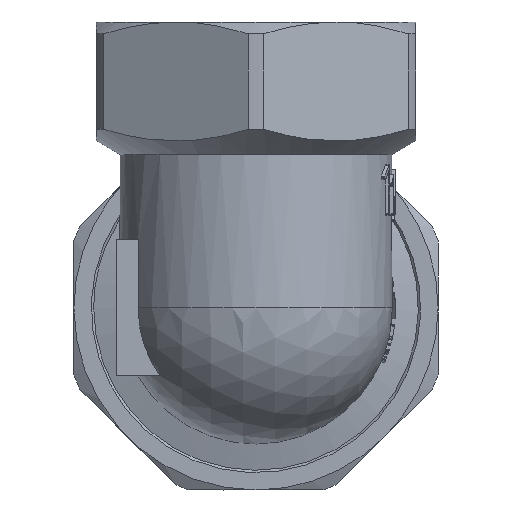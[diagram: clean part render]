
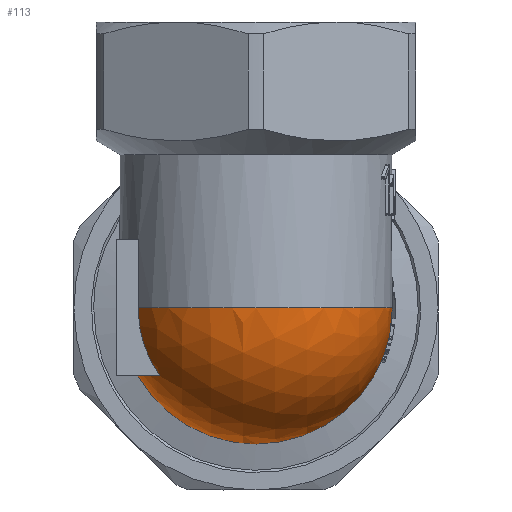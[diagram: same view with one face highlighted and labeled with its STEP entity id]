
A CAD part, front view. The second image highlights one B-rep face of the part: STEP entity #113.
In plain terms, the highlighted spherical face has radius 20 mm.
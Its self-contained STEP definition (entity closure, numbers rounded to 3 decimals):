
#113=ADVANCED_FACE('',(#981),#983,.T.);
#981=FACE_BOUND('',#982,.T.);
#982=EDGE_LOOP('',(#3015,#3016,#3017,#3018));
#983=SPHERICAL_SURFACE('',#984,20.);
#984=AXIS2_PLACEMENT_3D('',#985,#986,#987);
#985=CARTESIAN_POINT('',(0.,0.,0.));
#986=DIRECTION('',(-1.,0.,0.));
#987=DIRECTION('',(0.,0.,-1.));
#3015=ORIENTED_EDGE('',*,*,#4830,.T.);
#3016=ORIENTED_EDGE('',*,*,#4928,.F.);
#3017=ORIENTED_EDGE('',*,*,#4929,.F.);
#3018=ORIENTED_EDGE('',*,*,#4694,.T.);
#4694=EDGE_CURVE('',#5596,#5597,#5598,.F.);
#4830=EDGE_CURVE('',#5597,#5858,#5860,.F.);
#4928=EDGE_CURVE('',#6054,#5858,#6055,.F.);
#4929=EDGE_CURVE('',#5596,#6054,#6056,.T.);
#5596=VERTEX_POINT('',#8087);
#5597=VERTEX_POINT('',#8088);
#5598=CIRCLE('',#8089,20.);
#5858=VERTEX_POINT('',#9462);
#5860=CIRCLE('',#9466,20.);
#6054=VERTEX_POINT('',#10383);
#6055=CIRCLE('',#10384,17.321);
#6056=CIRCLE('',#10388,17.321);
#8087=CARTESIAN_POINT('',(-17.321,0.,-10.));
#8088=CARTESIAN_POINT('',(20.,0.,0.));
#8089=AXIS2_PLACEMENT_3D('',#8090,#8091,#8092);
#8090=CARTESIAN_POINT('',(0.,0.,0.));
#8091=DIRECTION('',(0.,1.,0.));
#8092=DIRECTION('',(1.,0.,0.));
#9462=CARTESIAN_POINT('',(-17.321,-10.,0.));
#9466=AXIS2_PLACEMENT_3D('',#9467,#9468,#9469);
#9467=CARTESIAN_POINT('',(0.,0.,0.));
#9468=DIRECTION('',(0.,0.,1.));
#9469=DIRECTION('',(-0.866,-0.5,0.));
#10383=CARTESIAN_POINT('',(-14.142,-10.,-10.));
#10384=AXIS2_PLACEMENT_3D('',#10385,#10386,#10387);
#10385=CARTESIAN_POINT('',(0.,-10.,0.));
#10386=DIRECTION('',(0.,-1.,0.));
#10387=DIRECTION('',(-1.,0.,0.));
#10388=AXIS2_PLACEMENT_3D('',#10389,#10390,#10391);
#10389=CARTESIAN_POINT('',(0.,0.,-10.));
#10390=DIRECTION('',(0.,0.,1.));
#10391=DIRECTION('',(-1.,0.,0.));
